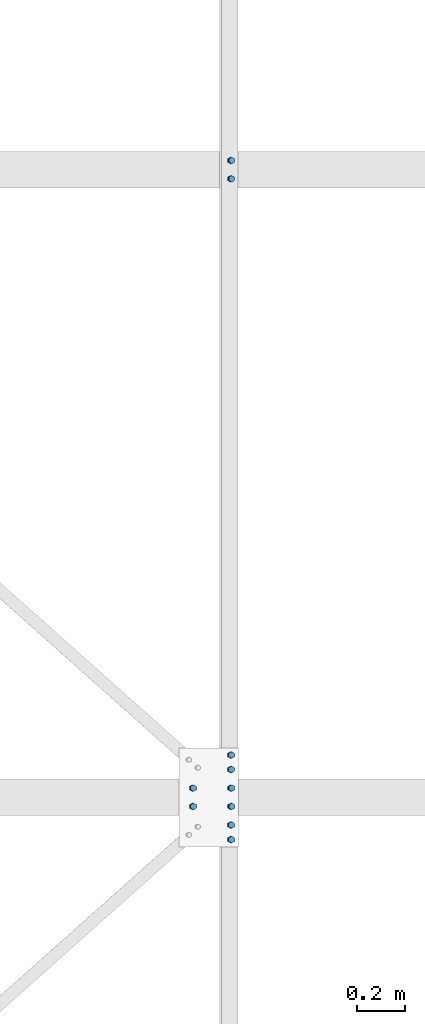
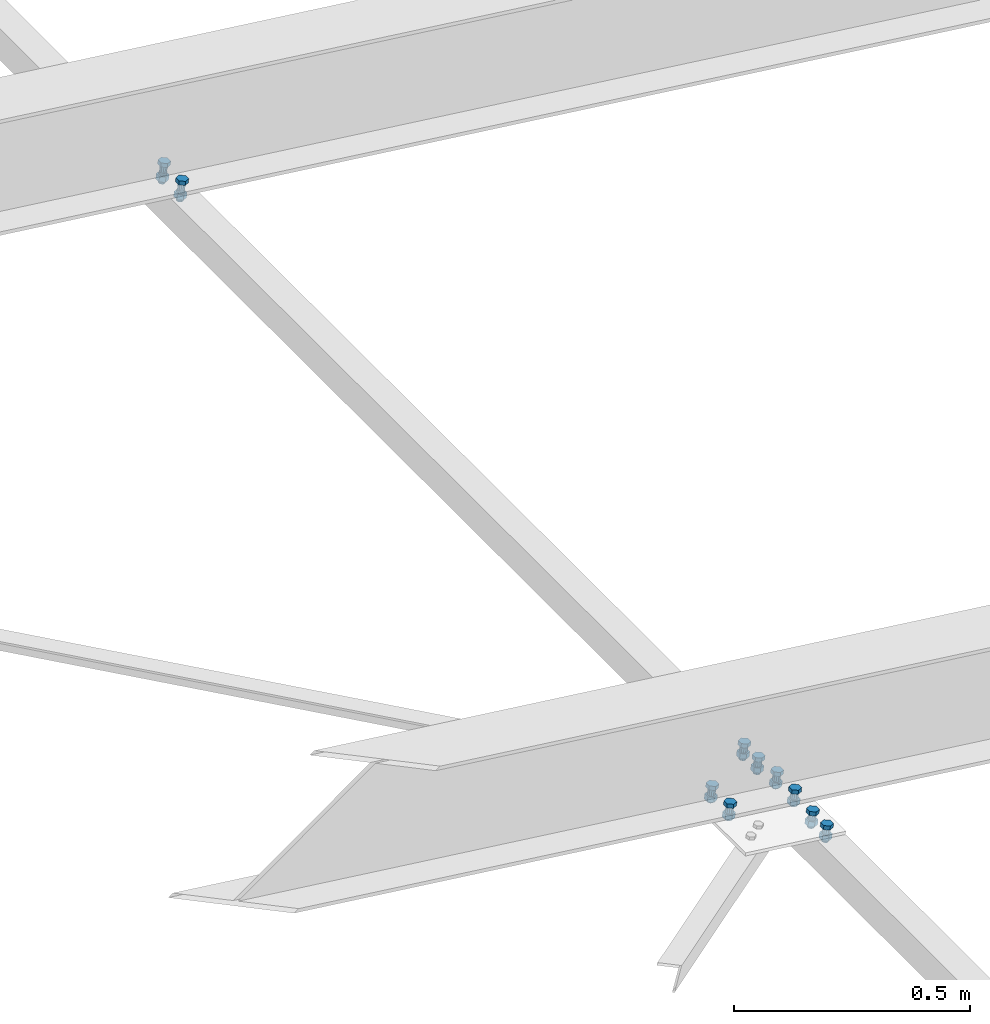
# One storey, part 257 of 3134: 4 mechanical fasteners, 3 elements without a shape of their own.
"""IFC2X3 building model written with IfcOpenShell, lengths in millimetres."""

from ifc_helpers import new_model, si_unit, frame, origin_with_axes, place, context, subcontext, project, spatial, faceted_brep, source, transform, mapped, material, type_object, element, aggregate, save


model = new_model("IFC2X3")

# Units and contexts
model_context = context("Model", 3, precision=1e-05, world=origin_with_axes())
body_context = subcontext(model_context, "Body", "Model", "MODEL_VIEW")
ifc_project = project(units=[si_unit("LENGTHUNIT", "METRE", prefix="MILLI"), si_unit("AREAUNIT", "SQUARE_METRE"), si_unit("VOLUMEUNIT", "CUBIC_METRE"), si_unit("MASSUNIT", "GRAM", prefix="KILO"), si_unit("TIMEUNIT", "SECOND"), si_unit("PLANEANGLEUNIT", "RADIAN"), si_unit("SOLIDANGLEUNIT", "STERADIAN"), si_unit("THERMODYNAMICTEMPERATUREUNIT", "DEGREE_CELSIUS"), si_unit("LUMINOUSINTENSITYUNIT", "LUMEN")], contexts=[model_context])

# Site, building, storey
site_placement = place(None, origin_with_axes())
site = spatial("IfcSite", under=ifc_project, at=site_placement, CompositionType="ELEMENT")
building_placement = place(site_placement, origin_with_axes())
building = spatial("IfcBuilding", under=site, at=building_placement, Name="Undefined", CompositionType="ELEMENT")
storey_placement = place(building_placement, origin_with_axes())
storey = spatial("IfcBuildingStorey", under=building, at=storey_placement, Name="Undefined", CompositionType="ELEMENT", Elevation=0.0)

# Assembly, mechanical fastener
assembly_1_placement = place(storey_placement, origin_with_axes())
assembly_1 = element("IfcElementAssembly", 1, at=assembly_1_placement, inside=storey, Name="300", AssemblyPlace="NOTDEFINED", PredefinedType="RIGID_FRAME")
ifc_material = material(Name="8.8")
mechanical_fastener_type = type_object("IfcMechanicalFastenerType", Name="Bolt assembly")
shared_shape_1 = source(origin_with_axes(), body_context, "Body", "Brep", [
    faceted_brep([(13.856406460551, -19.199990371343, 0.0), (6.92820323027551, -19.199990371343, 12.0), (-6.92820323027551, -19.199990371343, 12.0), (-13.856406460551, -19.199990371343, 1.69692038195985e-15), (-6.92820323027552, -19.199990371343, -12.0), (6.9282032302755, -19.199990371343, -12.0), (6.9282032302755, -9.19999037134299, -12.0), (-6.92820323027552, -9.19999037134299, -12.0), (-13.856406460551, -9.19999037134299, 1.69692038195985e-15), (-6.92820323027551, -9.19999037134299, 12.0), (6.92820323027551, -9.19999037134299, 12.0), (13.856406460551, -9.19999037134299, 0.0), (8.0, -9.19999037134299, 0.0), (6.92820323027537, -9.19999037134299, 4.00000000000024), (3.99999999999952, -9.19999037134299, 6.92820323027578), (-8.29068785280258e-13, -9.19999037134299, 8.0), (-4.00000000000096, -9.19999037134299, 6.92820323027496), (-6.9282032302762, -9.19999037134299, 3.99999999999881), (-8.0, -9.19999037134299, -1.65813757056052e-12), (-6.92820323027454, -9.19999037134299, -4.00000000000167), (-3.99999999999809, -9.19999037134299, -6.92820323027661), (2.47832457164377e-12, -9.19999037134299, -8.0), (4.00000000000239, -9.19999037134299, -6.92820323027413), (6.92820323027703, -9.19999037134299, -3.99999999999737), (6.92820323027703, 25.800009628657, -3.99999999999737), (4.00000000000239, 25.800009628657, -6.92820323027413), (2.47832457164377e-12, 25.800009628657, -8.0), (-3.99999999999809, 25.800009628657, -6.92820323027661), (-6.92820323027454, 25.800009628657, -4.00000000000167), (-8.0, 25.800009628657, -1.65813757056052e-12), (-6.9282032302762, 25.800009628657, 3.99999999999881), (-4.00000000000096, 25.800009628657, 6.92820323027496), (-8.29068785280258e-13, 25.800009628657, 8.0), (3.99999999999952, 25.800009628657, 6.92820323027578), (6.92820323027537, 25.800009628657, 4.00000000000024), (8.0, 25.800009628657, 0.0), (13.856406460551, 8.00000637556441, 0.0), (6.92820323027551, 8.00000637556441, 12.0), (-6.92820323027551, 8.00000637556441, 12.0), (-13.856406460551, 8.00000637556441, 1.69692038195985e-15), (-6.92820323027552, 8.00000637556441, -12.0), (6.9282032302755, 8.00000637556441, -12.0), (6.9282032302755, 21.0000063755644, -12.0), (-6.92820323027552, 21.0000063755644, -12.0), (-13.856406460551, 21.0000063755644, 1.69692038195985e-15), (-6.92820323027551, 21.0000063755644, 12.0), (6.92820323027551, 21.0000063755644, 12.0), (13.856406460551, 21.0000063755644, 0.0)], [[[0, 1, 2, 3, 4, 5]], [[6, 7, 8, 9, 10, 11]], [[0, 11, 10, 1]], [[1, 10, 9, 2]], [[2, 9, 8, 3]], [[3, 8, 7, 4]], [[4, 7, 6, 5]], [[5, 6, 11, 0]], [[12, 13, 14, 15, 16, 17, 18, 19, 20, 21, 22, 23]], [[24, 25, 26, 27, 28, 29, 30, 31, 32, 33, 34, 35]], [[12, 35, 34, 13]], [[13, 34, 33, 14]], [[14, 33, 32, 15]], [[15, 32, 31, 16]], [[16, 31, 30, 17]], [[17, 30, 29, 18]], [[18, 29, 28, 19]], [[19, 28, 27, 20]], [[20, 27, 26, 21]], [[21, 26, 25, 22]], [[22, 25, 24, 23]], [[23, 24, 35, 12]], [[36, 37, 38, 39, 40, 41]], [[42, 43, 44, 45, 46, 47]], [[36, 47, 46, 37]], [[37, 46, 45, 38]], [[38, 45, 44, 39]], [[39, 44, 43, 40]], [[40, 43, 42, 41]], [[41, 42, 47, 36]]]),
    faceted_brep([(9.0, -0.1, 0.0), (7.79422863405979, -0.1, 4.50000000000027), (4.49999999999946, -0.1, 7.79422863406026), (-9.3270238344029e-13, -0.1, 9.0), (-4.50000000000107, -0.1, 7.79422863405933), (-7.79422863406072, -0.1, 4.49999999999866), (-9.0, -0.1, -1.86540476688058e-12), (-7.79422863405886, -0.1, -4.50000000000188), (-4.49999999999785, -0.1, -7.79422863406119), (2.78811514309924e-12, -0.1, -9.0), (4.50000000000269, -0.1, -7.7942286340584), (7.79422863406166, -0.1, -4.49999999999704), (7.79422863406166, 8.00000000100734, -4.49999999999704), (4.50000000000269, 8.00000000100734, -7.7942286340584), (2.78811514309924e-12, 8.00000000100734, -9.0), (-4.49999999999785, 8.00000000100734, -7.79422863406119), (-7.79422863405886, 8.00000000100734, -4.50000000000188), (-9.0, 8.00000000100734, -1.86540476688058e-12), (-7.79422863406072, 8.00000000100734, 4.49999999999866), (-4.50000000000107, 8.00000000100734, 7.79422863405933), (-9.3270238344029e-13, 8.00000000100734, 9.0), (4.49999999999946, 8.00000000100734, 7.79422863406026), (7.79422863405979, 8.00000000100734, 4.50000000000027), (9.0, 8.00000000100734, 0.0), (9.0, -9.09999037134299, 0.0), (7.79422863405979, -9.09999037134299, 4.50000000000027), (4.49999999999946, -9.09999037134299, 7.79422863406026), (-9.3270238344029e-13, -9.09999037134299, 9.0), (-4.50000000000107, -9.09999037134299, 7.79422863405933), (-7.79422863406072, -9.09999037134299, 4.49999999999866), (-9.0, -9.09999037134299, -1.86540476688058e-12), (-7.79422863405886, -9.09999037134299, -4.50000000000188), (-4.49999999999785, -9.09999037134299, -7.79422863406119), (2.78811514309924e-12, -9.09999037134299, -9.0), (4.50000000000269, -9.09999037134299, -7.7942286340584), (7.79422863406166, -9.09999037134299, -4.49999999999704), (7.79422863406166, 0.100000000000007, -4.49999999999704), (4.50000000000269, 0.100000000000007, -7.7942286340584), (2.78811514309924e-12, 0.100000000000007, -9.0), (-4.49999999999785, 0.100000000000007, -7.79422863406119), (-7.79422863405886, 0.100000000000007, -4.50000000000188), (-9.0, 0.100000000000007, -1.86540476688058e-12), (-7.79422863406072, 0.100000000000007, 4.49999999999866), (-4.50000000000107, 0.100000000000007, 7.79422863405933), (-9.3270238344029e-13, 0.100000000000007, 9.0), (4.49999999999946, 0.100000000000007, 7.79422863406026), (7.79422863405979, 0.100000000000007, 4.50000000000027), (9.0, 0.100000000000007, 0.0)], [[[0, 1, 2, 3, 4, 5, 6, 7, 8, 9, 10, 11]], [[12, 13, 14, 15, 16, 17, 18, 19, 20, 21, 22, 23]], [[0, 23, 22, 1]], [[1, 22, 21, 2]], [[2, 21, 20, 3]], [[3, 20, 19, 4]], [[4, 19, 18, 5]], [[5, 18, 17, 6]], [[6, 17, 16, 7]], [[7, 16, 15, 8]], [[8, 15, 14, 9]], [[9, 14, 13, 10]], [[10, 13, 12, 11]], [[11, 12, 23, 0]], [[24, 25, 26, 27, 28, 29, 30, 31, 32, 33, 34, 35]], [[36, 37, 38, 39, 40, 41, 42, 43, 44, 45, 46, 47]], [[24, 47, 46, 25]], [[25, 46, 45, 26]], [[26, 45, 44, 27]], [[27, 44, 43, 28]], [[28, 43, 42, 29]], [[29, 42, 41, 30]], [[30, 41, 40, 31]], [[31, 40, 39, 32]], [[32, 39, 38, 33]], [[33, 38, 37, 34]], [[34, 37, 36, 35]], [[35, 36, 47, 24]]]),
])
mechanical_fastener_1_placement = place(assembly_1_placement, frame((49958.5751064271, 35012.0, 4816.43281405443), z_axis=(-0.992623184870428, 0.0, 0.121240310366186), x_axis=(0.0, 1.0, 0.0)))
mechanical_fastener_1 = element("IfcMechanicalFastener", 2, at=mechanical_fastener_1_placement, type_object=mechanical_fastener_type, material=ifc_material, Name="Bolt assembly", NominalDiameter=16.0, NominalLength=35.0, context=body_context, shape_type="MappedRepresentation", body=[
    mapped(shared_shape_1, transform((0.0, -5.32963895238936e-10, -79.9999999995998))),
    mapped(shared_shape_1, transform((76.0, -5.32963895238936e-10, -79.9999999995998))),
    mapped(shared_shape_1, transform((0.0, 5.3114490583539e-10, 79.9999999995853))),
    mapped(shared_shape_1, transform((76.0, 5.3114490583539e-10, 79.9999999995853))),
])
aggregate(assembly_1, [mechanical_fastener_1])

# Assembly, mechanical fasteners
assembly_2_placement = place(storey_placement, origin_with_axes())
assembly_2 = element("IfcElementAssembly", 3, at=assembly_2_placement, inside=storey, Name="PL8", AssemblyPlace="NOTDEFINED", PredefinedType="RIGID_FRAME")
shared_shape_2 = source(origin_with_axes(), body_context, "Body", "Brep", [
    faceted_brep([(13.856406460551, -10.0, 0.0), (6.92820323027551, -10.0, 12.0), (-6.92820323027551, -10.0, 12.0), (-13.856406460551, -10.0, 1.69692038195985e-15), (-6.92820323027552, -10.0, -12.0), (6.9282032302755, -10.0, -12.0), (6.9282032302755, 0.0, -12.0), (-6.92820323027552, 0.0, -12.0), (-13.856406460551, 0.0, 1.69692038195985e-15), (-6.92820323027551, 0.0, 12.0), (6.92820323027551, 0.0, 12.0), (13.856406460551, 0.0, 0.0), (8.0, 0.0, 0.0), (6.92820323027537, 0.0, 4.00000000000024), (3.99999999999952, 0.0, 6.92820323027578), (-8.29068785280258e-13, 0.0, 8.0), (-4.00000000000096, 0.0, 6.92820323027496), (-6.9282032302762, 0.0, 3.99999999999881), (-8.0, 0.0, -1.65813757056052e-12), (-6.92820323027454, 0.0, -4.00000000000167), (-3.99999999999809, 0.0, -6.92820323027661), (2.47832457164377e-12, 0.0, -8.0), (4.00000000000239, 0.0, -6.92820323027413), (6.92820323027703, 0.0, -3.99999999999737), (6.92820323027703, 35.0000000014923, -3.99999999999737), (4.00000000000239, 35.0000000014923, -6.92820323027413), (2.47832457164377e-12, 35.0000000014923, -8.0), (-3.99999999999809, 35.0000000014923, -6.92820323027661), (-6.92820323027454, 35.0000000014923, -4.00000000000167), (-8.0, 35.0000000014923, -1.65813757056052e-12), (-6.9282032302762, 35.0000000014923, 3.99999999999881), (-4.00000000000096, 35.0000000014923, 6.92820323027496), (-8.29068785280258e-13, 35.0000000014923, 8.0), (3.99999999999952, 35.0000000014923, 6.92820323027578), (6.92820323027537, 35.0000000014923, 4.00000000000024), (8.0, 35.0000000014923, 0.0), (13.856406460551, 14.9990000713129, 0.0), (6.92820323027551, 14.9990000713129, 12.0), (-6.92820323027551, 14.9990000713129, 12.0), (-13.856406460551, 14.9990000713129, 1.69692038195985e-15), (-6.92820323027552, 14.9990000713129, -12.0), (6.9282032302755, 14.9990000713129, -12.0), (6.9282032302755, 27.9990000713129, -12.0), (-6.92820323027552, 27.9990000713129, -12.0), (-13.856406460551, 27.9990000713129, 1.69692038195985e-15), (-6.92820323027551, 27.9990000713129, 12.0), (6.92820323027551, 27.9990000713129, 12.0), (13.856406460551, 27.9990000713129, 0.0)], [[[0, 1, 2, 3, 4, 5]], [[6, 7, 8, 9, 10, 11]], [[0, 11, 10, 1]], [[1, 10, 9, 2]], [[2, 9, 8, 3]], [[3, 8, 7, 4]], [[4, 7, 6, 5]], [[5, 6, 11, 0]], [[12, 13, 14, 15, 16, 17, 18, 19, 20, 21, 22, 23]], [[24, 25, 26, 27, 28, 29, 30, 31, 32, 33, 34, 35]], [[12, 35, 34, 13]], [[13, 34, 33, 14]], [[14, 33, 32, 15]], [[15, 32, 31, 16]], [[16, 31, 30, 17]], [[17, 30, 29, 18]], [[18, 29, 28, 19]], [[19, 28, 27, 20]], [[20, 27, 26, 21]], [[21, 26, 25, 22]], [[22, 25, 24, 23]], [[23, 24, 35, 12]], [[36, 37, 38, 39, 40, 41]], [[42, 43, 44, 45, 46, 47]], [[36, 47, 46, 37]], [[37, 46, 45, 38]], [[38, 45, 44, 39]], [[39, 44, 43, 40]], [[40, 43, 42, 41]], [[41, 42, 47, 36]]]),
    faceted_brep([(9.0, 7.89900007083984, 0.0), (7.79422863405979, 7.89900007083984, 4.50000000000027), (4.49999999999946, 7.89900007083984, 7.79422863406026), (-9.3270238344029e-13, 7.89900007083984, 9.0), (-4.50000000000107, 7.89900007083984, 7.79422863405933), (-7.79422863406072, 7.89900007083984, 4.49999999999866), (-9.0, 7.89900007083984, -1.86540476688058e-12), (-7.79422863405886, 7.89900007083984, -4.50000000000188), (-4.49999999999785, 7.89900007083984, -7.79422863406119), (2.78811514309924e-12, 7.89900007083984, -9.0), (4.50000000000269, 7.89900007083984, -7.7942286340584), (7.79422863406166, 7.89900007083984, -4.49999999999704), (7.79422863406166, 14.9990000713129, -4.49999999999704), (4.50000000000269, 14.9990000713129, -7.7942286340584), (2.78811514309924e-12, 14.9990000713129, -9.0), (-4.49999999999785, 14.9990000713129, -7.79422863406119), (-7.79422863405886, 14.9990000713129, -4.50000000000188), (-9.0, 14.9990000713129, -1.86540476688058e-12), (-7.79422863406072, 14.9990000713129, 4.49999999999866), (-4.50000000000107, 14.9990000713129, 7.79422863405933), (-9.3270238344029e-13, 14.9990000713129, 9.0), (4.49999999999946, 14.9990000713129, 7.79422863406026), (7.79422863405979, 14.9990000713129, 4.50000000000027), (9.0, 14.9990000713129, 0.0), (9.0, 0.100000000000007, 0.0), (7.79422863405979, 0.100000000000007, 4.50000000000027), (4.49999999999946, 0.100000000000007, 7.79422863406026), (-9.3270238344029e-13, 0.100000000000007, 9.0), (-4.50000000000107, 0.100000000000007, 7.79422863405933), (-7.79422863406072, 0.100000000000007, 4.49999999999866), (-9.0, 0.100000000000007, -1.86540476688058e-12), (-7.79422863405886, 0.100000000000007, -4.50000000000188), (-4.49999999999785, 0.100000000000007, -7.79422863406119), (2.78811514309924e-12, 0.100000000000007, -9.0), (4.50000000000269, 0.100000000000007, -7.7942286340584), (7.79422863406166, 0.100000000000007, -4.49999999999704), (7.79422863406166, 8.1, -4.49999999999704), (4.50000000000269, 8.1, -7.7942286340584), (2.78811514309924e-12, 8.1, -9.0), (-4.49999999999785, 8.1, -7.79422863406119), (-7.79422863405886, 8.1, -4.50000000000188), (-9.0, 8.1, -1.86540476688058e-12), (-7.79422863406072, 8.1, 4.49999999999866), (-4.50000000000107, 8.1, 7.79422863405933), (-9.3270238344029e-13, 8.1, 9.0), (4.49999999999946, 8.1, 7.79422863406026), (7.79422863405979, 8.1, 4.50000000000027), (9.0, 8.1, 0.0)], [[[0, 1, 2, 3, 4, 5, 6, 7, 8, 9, 10, 11]], [[12, 13, 14, 15, 16, 17, 18, 19, 20, 21, 22, 23]], [[0, 23, 22, 1]], [[1, 22, 21, 2]], [[2, 21, 20, 3]], [[3, 20, 19, 4]], [[4, 19, 18, 5]], [[5, 18, 17, 6]], [[6, 17, 16, 7]], [[7, 16, 15, 8]], [[8, 15, 14, 9]], [[9, 14, 13, 10]], [[10, 13, 12, 11]], [[11, 12, 23, 0]], [[24, 25, 26, 27, 28, 29, 30, 31, 32, 33, 34, 35]], [[36, 37, 38, 39, 40, 41, 42, 43, 44, 45, 46, 47]], [[24, 47, 46, 25]], [[25, 46, 45, 26]], [[26, 45, 44, 27]], [[27, 44, 43, 28]], [[28, 43, 42, 29]], [[29, 42, 41, 30]], [[30, 41, 40, 31]], [[31, 40, 39, 32]], [[32, 39, 38, 33]], [[33, 38, 37, 34]], [[34, 37, 36, 35]], [[35, 36, 47, 24]]]),
])
mechanical_fastener_2_placement = place(assembly_2_placement, frame((50037.9849612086, 35225.0, 4806.73358922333), z_axis=(0.992623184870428, 0.0, -0.121240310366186), x_axis=(0.0, -1.0, 0.0)))
mechanical_fastener_2 = element("IfcMechanicalFastener", 4, at=mechanical_fastener_2_placement, type_object=mechanical_fastener_type, material=ifc_material, Name="Bolt assembly", NominalDiameter=16.0, NominalLength=35.0, context=body_context, shape_type="MappedRepresentation", body=[
    mapped(shared_shape_2, transform((0.0, 0.0, 0.0))),
    mapped(shared_shape_2, transform((59.9999999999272, 0.0, 5.40239852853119e-10))),
])
shared_shape_3 = source(origin_with_axes(), body_context, "Body", "Brep", [
    faceted_brep([(13.856406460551, -10.0, 0.0), (6.92820323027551, -10.0, 12.0), (-6.92820323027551, -10.0, 12.0), (-13.856406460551, -10.0, 1.69692038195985e-15), (-6.92820323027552, -10.0, -12.0), (6.9282032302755, -10.0, -12.0), (6.9282032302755, 0.0, -12.0), (-6.92820323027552, 0.0, -12.0), (-13.856406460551, 0.0, 1.69692038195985e-15), (-6.92820323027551, 0.0, 12.0), (6.92820323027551, 0.0, 12.0), (13.856406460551, 0.0, 0.0), (8.0, 0.0, 0.0), (6.92820323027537, 0.0, 4.00000000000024), (3.99999999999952, 0.0, 6.92820323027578), (-8.29068785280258e-13, 0.0, 8.0), (-4.00000000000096, 0.0, 6.92820323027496), (-6.9282032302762, 0.0, 3.99999999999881), (-8.0, 0.0, -1.65813757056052e-12), (-6.92820323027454, 0.0, -4.00000000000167), (-3.99999999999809, 0.0, -6.92820323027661), (2.47832457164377e-12, 0.0, -8.0), (4.00000000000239, 0.0, -6.92820323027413), (6.92820323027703, 0.0, -3.99999999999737), (6.92820323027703, 35.0000000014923, -3.99999999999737), (4.00000000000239, 35.0000000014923, -6.92820323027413), (2.47832457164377e-12, 35.0000000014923, -8.0), (-3.99999999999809, 35.0000000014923, -6.92820323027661), (-6.92820323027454, 35.0000000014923, -4.00000000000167), (-8.0, 35.0000000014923, -1.65813757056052e-12), (-6.9282032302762, 35.0000000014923, 3.99999999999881), (-4.00000000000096, 35.0000000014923, 6.92820323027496), (-8.29068785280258e-13, 35.0000000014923, 8.0), (3.99999999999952, 35.0000000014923, 6.92820323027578), (6.92820323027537, 35.0000000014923, 4.00000000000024), (8.0, 35.0000000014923, 0.0), (13.856406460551, 14.9999995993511, 0.0), (6.92820323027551, 14.9999995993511, 12.0), (-6.92820323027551, 14.9999995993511, 12.0), (-13.856406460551, 14.9999995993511, 1.69692038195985e-15), (-6.92820323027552, 14.9999995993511, -12.0), (6.9282032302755, 14.9999995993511, -12.0), (6.9282032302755, 27.9999995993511, -12.0), (-6.92820323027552, 27.9999995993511, -12.0), (-13.856406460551, 27.9999995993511, 1.69692038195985e-15), (-6.92820323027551, 27.9999995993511, 12.0), (6.92820323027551, 27.9999995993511, 12.0), (13.856406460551, 27.9999995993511, 0.0)], [[[0, 1, 2, 3, 4, 5]], [[6, 7, 8, 9, 10, 11]], [[0, 11, 10, 1]], [[1, 10, 9, 2]], [[2, 9, 8, 3]], [[3, 8, 7, 4]], [[4, 7, 6, 5]], [[5, 6, 11, 0]], [[12, 13, 14, 15, 16, 17, 18, 19, 20, 21, 22, 23]], [[24, 25, 26, 27, 28, 29, 30, 31, 32, 33, 34, 35]], [[12, 35, 34, 13]], [[13, 34, 33, 14]], [[14, 33, 32, 15]], [[15, 32, 31, 16]], [[16, 31, 30, 17]], [[17, 30, 29, 18]], [[18, 29, 28, 19]], [[19, 28, 27, 20]], [[20, 27, 26, 21]], [[21, 26, 25, 22]], [[22, 25, 24, 23]], [[23, 24, 35, 12]], [[36, 37, 38, 39, 40, 41]], [[42, 43, 44, 45, 46, 47]], [[36, 47, 46, 37]], [[37, 46, 45, 38]], [[38, 45, 44, 39]], [[39, 44, 43, 40]], [[40, 43, 42, 41]], [[41, 42, 47, 36]]]),
    faceted_brep([(9.0, 7.9, 0.0), (7.79422863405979, 7.9, 4.50000000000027), (4.49999999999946, 7.9, 7.79422863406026), (-9.3270238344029e-13, 7.9, 9.0), (-4.50000000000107, 7.9, 7.79422863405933), (-7.79422863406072, 7.9, 4.49999999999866), (-9.0, 7.9, -1.86540476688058e-12), (-7.79422863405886, 7.9, -4.50000000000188), (-4.49999999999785, 7.9, -7.79422863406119), (2.78811514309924e-12, 7.9, -9.0), (4.50000000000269, 7.9, -7.7942286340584), (7.79422863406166, 7.9, -4.49999999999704), (7.79422863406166, 14.9999995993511, -4.49999999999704), (4.50000000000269, 14.9999995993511, -7.7942286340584), (2.78811514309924e-12, 14.9999995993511, -9.0), (-4.49999999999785, 14.9999995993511, -7.79422863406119), (-7.79422863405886, 14.9999995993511, -4.50000000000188), (-9.0, 14.9999995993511, -1.86540476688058e-12), (-7.79422863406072, 14.9999995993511, 4.49999999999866), (-4.50000000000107, 14.9999995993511, 7.79422863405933), (-9.3270238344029e-13, 14.9999995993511, 9.0), (4.49999999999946, 14.9999995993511, 7.79422863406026), (7.79422863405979, 14.9999995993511, 4.50000000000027), (9.0, 14.9999995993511, 0.0), (9.0, 0.100000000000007, 0.0), (7.79422863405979, 0.100000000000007, 4.50000000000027), (4.49999999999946, 0.100000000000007, 7.79422863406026), (-9.3270238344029e-13, 0.100000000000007, 9.0), (-4.50000000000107, 0.100000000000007, 7.79422863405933), (-7.79422863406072, 0.100000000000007, 4.49999999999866), (-9.0, 0.100000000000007, -1.86540476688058e-12), (-7.79422863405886, 0.100000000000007, -4.50000000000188), (-4.49999999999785, 0.100000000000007, -7.79422863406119), (2.78811514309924e-12, 0.100000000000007, -9.0), (4.50000000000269, 0.100000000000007, -7.7942286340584), (7.79422863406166, 0.100000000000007, -4.49999999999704), (7.79422863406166, 8.1, -4.49999999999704), (4.50000000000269, 8.1, -7.7942286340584), (2.78811514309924e-12, 8.1, -9.0), (-4.49999999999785, 8.1, -7.79422863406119), (-7.79422863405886, 8.1, -4.50000000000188), (-9.0, 8.1, -1.86540476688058e-12), (-7.79422863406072, 8.1, 4.49999999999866), (-4.50000000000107, 8.1, 7.79422863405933), (-9.3270238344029e-13, 8.1, 9.0), (4.49999999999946, 8.1, 7.79422863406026), (7.79422863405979, 8.1, 4.50000000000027), (9.0, 8.1, 0.0)], [[[0, 1, 2, 3, 4, 5, 6, 7, 8, 9, 10, 11]], [[12, 13, 14, 15, 16, 17, 18, 19, 20, 21, 22, 23]], [[0, 23, 22, 1]], [[1, 22, 21, 2]], [[2, 21, 20, 3]], [[3, 20, 19, 4]], [[4, 19, 18, 5]], [[5, 18, 17, 6]], [[6, 17, 16, 7]], [[7, 16, 15, 8]], [[8, 15, 14, 9]], [[9, 14, 13, 10]], [[10, 13, 12, 11]], [[11, 12, 23, 0]], [[24, 25, 26, 27, 28, 29, 30, 31, 32, 33, 34, 35]], [[36, 37, 38, 39, 40, 41, 42, 43, 44, 45, 46, 47]], [[24, 47, 46, 25]], [[25, 46, 45, 26]], [[26, 45, 44, 27]], [[27, 44, 43, 28]], [[28, 43, 42, 29]], [[29, 42, 41, 30]], [[30, 41, 40, 31]], [[31, 40, 39, 32]], [[32, 39, 38, 33]], [[33, 38, 37, 34]], [[34, 37, 36, 35]], [[35, 36, 47, 24]]]),
])
mechanical_fastener_3_placement = place(assembly_2_placement, frame((50037.9849612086, 34935.0, 4806.73358922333), z_axis=(0.992623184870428, 0.0, -0.121240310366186), x_axis=(0.0, -1.0, 0.0)))
mechanical_fastener_3 = element("IfcMechanicalFastener", 5, at=mechanical_fastener_3_placement, type_object=mechanical_fastener_type, material=ifc_material, Name="Bolt assembly", NominalDiameter=16.0, NominalLength=35.0, context=body_context, shape_type="MappedRepresentation", body=[
    mapped(shared_shape_3, transform((0.0, 0.0, 0.0))),
    mapped(shared_shape_3, transform((59.9999999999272, 0.0, 5.40239852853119e-10))),
])
aggregate(assembly_2, [mechanical_fastener_3, mechanical_fastener_2])

# Assembly, mechanical fastener
assembly_3_placement = place(storey_placement, origin_with_axes())
assembly_3 = element("IfcElementAssembly", 6, at=assembly_3_placement, inside=storey, AssemblyPlace="NOTDEFINED", PredefinedType="RIGID_FRAME")
shared_shape_4 = source(origin_with_axes(), body_context, "Body", "Brep", [
    faceted_brep([(13.856406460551, -19.199990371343, 0.0), (6.92820323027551, -19.199990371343, 12.0), (-6.92820323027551, -19.199990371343, 12.0), (-13.856406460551, -19.199990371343, 1.69692038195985e-15), (-6.92820323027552, -19.199990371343, -12.0), (6.9282032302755, -19.199990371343, -12.0), (6.9282032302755, -9.19999037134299, -12.0), (-6.92820323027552, -9.19999037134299, -12.0), (-13.856406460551, -9.19999037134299, 1.69692038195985e-15), (-6.92820323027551, -9.19999037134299, 12.0), (6.92820323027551, -9.19999037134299, 12.0), (13.856406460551, -9.19999037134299, 0.0), (8.0, -9.19999037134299, 0.0), (6.92820323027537, -9.19999037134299, 4.00000000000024), (3.99999999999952, -9.19999037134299, 6.92820323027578), (-8.29068785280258e-13, -9.19999037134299, 8.0), (-4.00000000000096, -9.19999037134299, 6.92820323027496), (-6.9282032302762, -9.19999037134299, 3.99999999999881), (-8.0, -9.19999037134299, -1.65813757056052e-12), (-6.92820323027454, -9.19999037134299, -4.00000000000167), (-3.99999999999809, -9.19999037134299, -6.92820323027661), (2.47832457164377e-12, -9.19999037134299, -8.0), (4.00000000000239, -9.19999037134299, -6.92820323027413), (6.92820323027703, -9.19999037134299, -3.99999999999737), (6.92820323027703, 35.8000002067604, -3.99999999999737), (4.00000000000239, 35.8000002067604, -6.92820323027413), (2.47832457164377e-12, 35.8000002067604, -8.0), (-3.99999999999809, 35.8000002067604, -6.92820323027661), (-6.92820323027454, 35.8000002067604, -4.00000000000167), (-8.0, 35.8000002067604, -1.65813757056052e-12), (-6.9282032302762, 35.8000002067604, 3.99999999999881), (-4.00000000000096, 35.8000002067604, 6.92820323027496), (-8.29068785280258e-13, 35.8000002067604, 8.0), (3.99999999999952, 35.8000002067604, 6.92820323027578), (6.92820323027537, 35.8000002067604, 4.00000000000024), (8.0, 35.8000002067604, 0.0), (13.856406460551, 14.9990000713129, 0.0), (6.92820323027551, 14.9990000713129, 12.0), (-6.92820323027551, 14.9990000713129, 12.0), (-13.856406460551, 14.9990000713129, 1.69692038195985e-15), (-6.92820323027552, 14.9990000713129, -12.0), (6.9282032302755, 14.9990000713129, -12.0), (6.9282032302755, 27.9990000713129, -12.0), (-6.92820323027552, 27.9990000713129, -12.0), (-13.856406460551, 27.9990000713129, 1.69692038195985e-15), (-6.92820323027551, 27.9990000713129, 12.0), (6.92820323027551, 27.9990000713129, 12.0), (13.856406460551, 27.9990000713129, 0.0)], [[[0, 1, 2, 3, 4, 5]], [[6, 7, 8, 9, 10, 11]], [[0, 11, 10, 1]], [[1, 10, 9, 2]], [[2, 9, 8, 3]], [[3, 8, 7, 4]], [[4, 7, 6, 5]], [[5, 6, 11, 0]], [[12, 13, 14, 15, 16, 17, 18, 19, 20, 21, 22, 23]], [[24, 25, 26, 27, 28, 29, 30, 31, 32, 33, 34, 35]], [[12, 35, 34, 13]], [[13, 34, 33, 14]], [[14, 33, 32, 15]], [[15, 32, 31, 16]], [[16, 31, 30, 17]], [[17, 30, 29, 18]], [[18, 29, 28, 19]], [[19, 28, 27, 20]], [[20, 27, 26, 21]], [[21, 26, 25, 22]], [[22, 25, 24, 23]], [[23, 24, 35, 12]], [[36, 37, 38, 39, 40, 41]], [[42, 43, 44, 45, 46, 47]], [[36, 47, 46, 37]], [[37, 46, 45, 38]], [[38, 45, 44, 39]], [[39, 44, 43, 40]], [[40, 43, 42, 41]], [[41, 42, 47, 36]]]),
    faceted_brep([(9.0, -9.09999037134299, 0.0), (7.79422863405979, -9.09999037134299, 4.50000000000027), (4.49999999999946, -9.09999037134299, 7.79422863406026), (-9.3270238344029e-13, -9.09999037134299, 9.0), (-4.50000000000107, -9.09999037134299, 7.79422863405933), (-7.79422863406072, -9.09999037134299, 4.49999999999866), (-9.0, -9.09999037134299, -1.86540476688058e-12), (-7.79422863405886, -9.09999037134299, -4.50000000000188), (-4.49999999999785, -9.09999037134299, -7.79422863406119), (2.78811514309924e-12, -9.09999037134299, -9.0), (4.50000000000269, -9.09999037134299, -7.7942286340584), (7.79422863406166, -9.09999037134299, -4.49999999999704), (7.79422863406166, 0.100000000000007, -4.49999999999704), (4.50000000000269, 0.100000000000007, -7.7942286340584), (2.78811514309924e-12, 0.100000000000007, -9.0), (-4.49999999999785, 0.100000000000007, -7.79422863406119), (-7.79422863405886, 0.100000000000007, -4.50000000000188), (-9.0, 0.100000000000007, -1.86540476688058e-12), (-7.79422863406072, 0.100000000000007, 4.49999999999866), (-4.50000000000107, 0.100000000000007, 7.79422863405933), (-9.3270238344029e-13, 0.100000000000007, 9.0), (4.49999999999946, 0.100000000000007, 7.79422863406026), (7.79422863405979, 0.100000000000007, 4.50000000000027), (9.0, 0.100000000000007, 0.0), (9.0, 7.89900007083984, 0.0), (7.79422863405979, 7.89900007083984, 4.50000000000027), (4.49999999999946, 7.89900007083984, 7.79422863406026), (-9.3270238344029e-13, 7.89900007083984, 9.0), (-4.50000000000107, 7.89900007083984, 7.79422863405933), (-7.79422863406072, 7.89900007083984, 4.49999999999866), (-9.0, 7.89900007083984, -1.86540476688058e-12), (-7.79422863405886, 7.89900007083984, -4.50000000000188), (-4.49999999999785, 7.89900007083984, -7.79422863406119), (2.78811514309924e-12, 7.89900007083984, -9.0), (4.50000000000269, 7.89900007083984, -7.7942286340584), (7.79422863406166, 7.89900007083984, -4.49999999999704), (7.79422863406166, 14.9990000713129, -4.49999999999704), (4.50000000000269, 14.9990000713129, -7.7942286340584), (2.78811514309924e-12, 14.9990000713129, -9.0), (-4.49999999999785, 14.9990000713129, -7.79422863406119), (-7.79422863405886, 14.9990000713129, -4.50000000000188), (-9.0, 14.9990000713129, -1.86540476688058e-12), (-7.79422863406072, 14.9990000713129, 4.49999999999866), (-4.50000000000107, 14.9990000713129, 7.79422863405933), (-9.3270238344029e-13, 14.9990000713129, 9.0), (4.49999999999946, 14.9990000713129, 7.79422863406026), (7.79422863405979, 14.9990000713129, 4.50000000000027), (9.0, 14.9990000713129, 0.0)], [[[0, 1, 2, 3, 4, 5, 6, 7, 8, 9, 10, 11]], [[12, 13, 14, 15, 16, 17, 18, 19, 20, 21, 22, 23]], [[0, 23, 22, 1]], [[1, 22, 21, 2]], [[2, 21, 20, 3]], [[3, 20, 19, 4]], [[4, 19, 18, 5]], [[5, 18, 17, 6]], [[6, 17, 16, 7]], [[7, 16, 15, 8]], [[8, 15, 14, 9]], [[9, 14, 13, 10]], [[10, 13, 12, 11]], [[11, 12, 23, 0]], [[24, 25, 26, 27, 28, 29, 30, 31, 32, 33, 34, 35]], [[36, 37, 38, 39, 40, 41, 42, 43, 44, 45, 46, 47]], [[24, 47, 46, 25]], [[25, 46, 45, 26]], [[26, 45, 44, 27]], [[27, 44, 43, 28]], [[28, 43, 42, 29]], [[29, 42, 41, 30]], [[30, 41, 40, 31]], [[31, 40, 39, 32]], [[32, 39, 38, 33]], [[33, 38, 37, 34]], [[34, 37, 36, 35]], [[35, 36, 47, 24]]]),
])
mechanical_fastener_4_placement = place(assembly_3_placement, frame((50037.9849612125, 37612.0, 4806.73358922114), z_axis=(-0.992623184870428, 0.0, 0.121240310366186), x_axis=(0.0, 1.0, 0.0)))
mechanical_fastener_4 = element("IfcMechanicalFastener", 7, at=mechanical_fastener_4_placement, type_object=mechanical_fastener_type, material=ifc_material, Name="Bolt assembly", NominalDiameter=16.0, NominalLength=45.0, context=body_context, shape_type="MappedRepresentation", body=[
    mapped(shared_shape_4, transform((0.0, 0.0, 0.0))),
    mapped(shared_shape_4, transform((76.0, 0.0, 0.0))),
])
aggregate(assembly_3, [mechanical_fastener_4])

save(model, "model.ifc")
